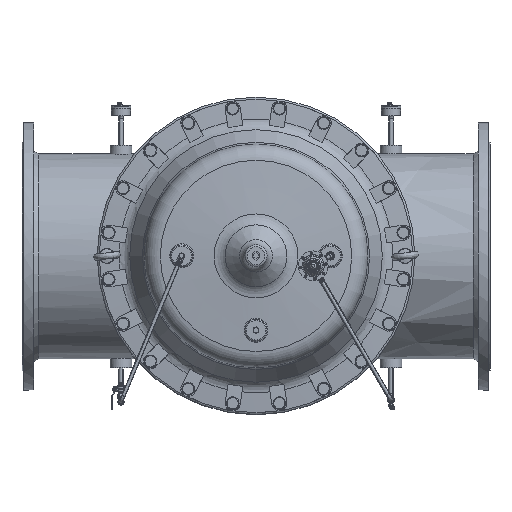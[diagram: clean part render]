
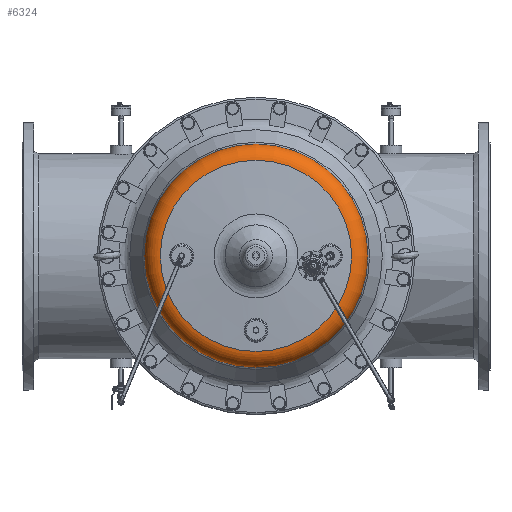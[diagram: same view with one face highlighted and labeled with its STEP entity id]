
A CAD part, top view. The second image highlights one B-rep face of the part: STEP entity #6324.
In plain terms, the highlighted toroidal (fillet/blend) face has major radius 251.375 mm and minor radius 47.25 mm.
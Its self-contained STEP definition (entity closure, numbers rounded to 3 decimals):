
#6324=ADVANCED_FACE('',(#20334,#20336),#20338,.T.);
#20334=FACE_OUTER_BOUND('',#20335,.T.);
#20335=EDGE_LOOP('',(#46048));
#20336=FACE_OUTER_BOUND('',#20337,.T.);
#20337=EDGE_LOOP('',(#46049));
#20338=TOROIDAL_SURFACE('',#20339,251.375,47.25);
#20339=AXIS2_PLACEMENT_3D('',#20340,#20341,#20342);
#20340=CARTESIAN_POINT('',(0.,-131.914,0.));
#20341=DIRECTION('',(0.,-1.,0.));
#20342=DIRECTION('',(1.,0.,0.));
#46048=ORIENTED_EDGE('',*,*,#52851,.T.);
#46049=ORIENTED_EDGE('',*,*,#52836,.F.);
#52836=EDGE_CURVE('',#58042,#58042,#58043,.T.);
#52851=EDGE_CURVE('',#58072,#58072,#58073,.T.);
#58042=VERTEX_POINT('',#86520);
#58043=CIRCLE('',#86521,255.493);
#58072=VERTEX_POINT('',#86816);
#58073=CIRCLE('',#86817,298.625);
#86520=CARTESIAN_POINT('',(255.493,-178.984,0.));
#86521=AXIS2_PLACEMENT_3D('',#86522,#86523,#86524);
#86522=CARTESIAN_POINT('',(0.,-178.984,0.));
#86523=DIRECTION('',(0.,-1.,0.));
#86524=DIRECTION('',(1.,0.,0.));
#86816=CARTESIAN_POINT('',(298.625,-131.914,0.));
#86817=AXIS2_PLACEMENT_3D('',#86818,#86819,#86820);
#86818=CARTESIAN_POINT('',(0.,-131.914,0.));
#86819=DIRECTION('',(0.,-1.,0.));
#86820=DIRECTION('',(1.,0.,0.));
